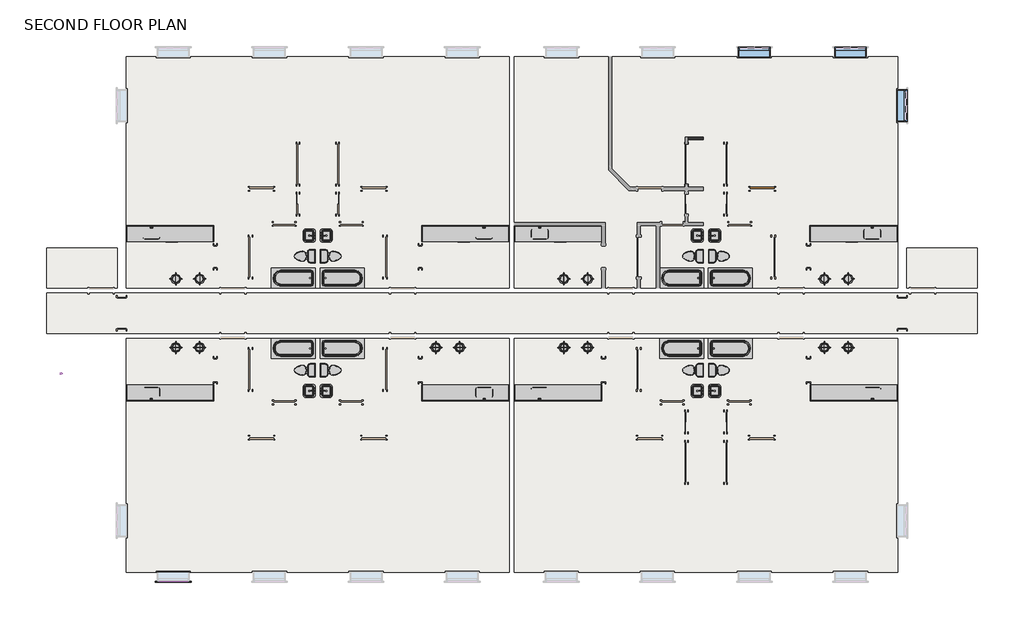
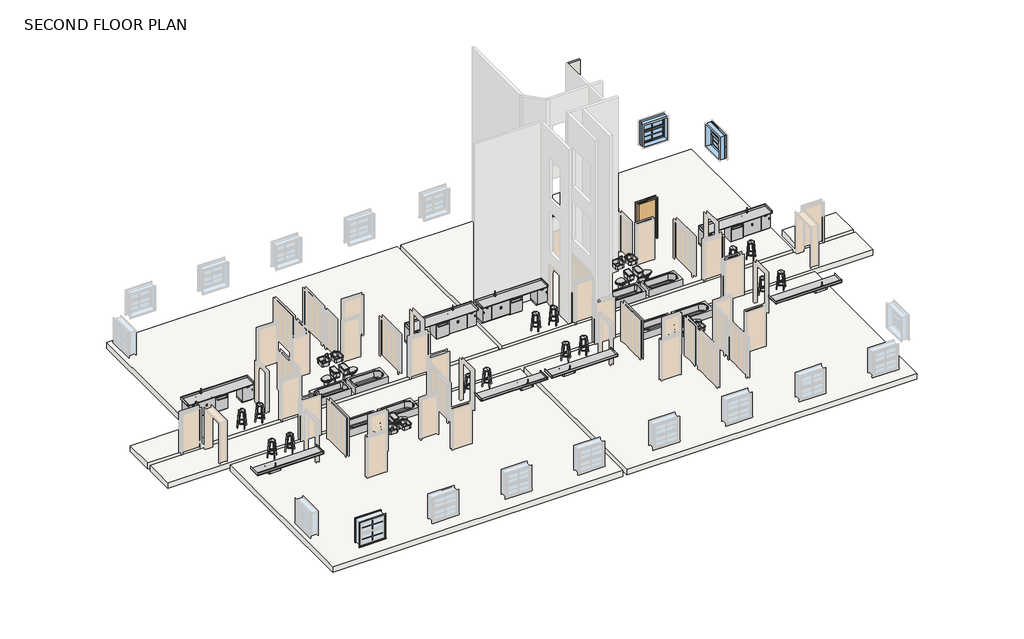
# One storey, part 2 of 3: 34 furniture elements, 32 flow terminals, 9 proxies, 4 slabs, 3 doors, 3 windows, 1 wall.
"""IFC4 building model written with IfcOpenShell, lengths in millimetres."""

from ifc_helpers import new_model, si_unit, frame, origin, place, context, project, spatial, polyline, outline, extrude, transform, mapped, element, save
from components import specialty_equipment_0a81d442, k2515_dishwasher_household_k2515_dishwasher_household_cf2658f5, k2515_dishwasher_household_k2515_dishwasher_household_46c228bc, muntin_pattern_2x2_muntin_pattern_2x2_770224b8, muntin_pattern_2x2_muntin_pattern_2x2_cf99dd86, trim_window_exterior_flat_with_sill_ac84ebb5, trim_window_interior_flat_picture_frame_caf2db4f, door_37c67c65, door_e5d25033, lsy_sink_1a_065a4558, lsy_sink_1a_83b20bf5, flow_terminal_62a433f7, flow_terminal_4d0de4d3, toilet_domestic_3d_toilet_domestic_3d_f7549cf7, toilet_domestic_3d_toilet_domestic_3d_183bbd19, toilet_domestic_3d_toilet_domestic_3d_a08e12bc, toilet_domestic_3d_toilet_domestic_3d_5530cc89, tub_rectangular_3d_tub_rectangular_3d_2253513b, tub_rectangular_3d_tub_rectangular_3d_4e1d8e59, hb12_hb12_18_68083de8, hb12_hb12_18_c50c6706, hb12_hb12_21_dfdbf895, hb12_hb12_21_72806c5e, lsy_bench_top_24dx36h_e849d271, lsy_bench_top_24dx36h_08832318, lsy_bench_top_24dx36h_2ddf329b, lsy_bench_top_24dx36h_1d034a2a, lab_stool_lab_stool_8e3c4d68, lab_stool_lab_stool_061d08b2, sb02_sb2_36_93bd8c5c, sb02_sb2_36_312036f5, window_28d7aabf

model = new_model("IFC4")

# Units and contexts
model_context = context("Model", 3, world=origin())
ifc_project = project(units=[si_unit("LENGTHUNIT", "METRE", prefix="MILLI")], contexts=[model_context])

# Site, building, storey
site = spatial("IfcSite", under=ifc_project)
building = spatial("IfcBuilding", under=site)
storey = spatial("IfcBuildingStorey", under=building, Name="SECOND FLOOR PLAN", Elevation=2844.8)

# Proxies
placement = place(None, origin())
specialty_equipment_shape = specialty_equipment_0a81d442(model_context)
element("IfcBuildingElementProxy", 1, Name="KONE_Buffer_Placeholder : KONE_Buffer_Placeholder", ObjectType="KONE_Buffer_Placeholder : KONE_Buffer_Placeholder", at=placement, inside=storey, context=model_context, shape_type="MappedRepresentation", body=[
    mapped(specialty_equipment_shape, transform((-7809.8601133, 3172.922244, 7810.8), x_axis=(1.0, 0.0, 0.0), y_axis=(0.0, 1.0, 0.0), z_axis=(0.0, 0.0, 1.0))),
])
k2515_dishwasher_household_k2515_dishwasher_household_shape = k2515_dishwasher_household_k2515_dishwasher_household_cf2658f5(model_context)
element("IfcBuildingElementProxy", 2, Name="K2515 - Dishwasher, Household : K2515 - Dishwasher, Household", ObjectType="K2515 - Dishwasher, Household : K2515 - Dishwasher, Household", at=placement, inside=storey, context=model_context, shape_type="MappedRepresentation", body=[
    mapped(k2515_dishwasher_household_k2515_dishwasher_household_shape, transform((-3453.9790125, 8530.5137881, 2844.8), x_axis=(1.0, 0.0, 0.0), y_axis=(0.0, 1.0, 0.0), z_axis=(0.0, 0.0, 1.0))),
])
element("IfcBuildingElementProxy", 3, Name="K2515 - Dishwasher, Household : K2515 - Dishwasher, Household", ObjectType="K2515 - Dishwasher, Household : K2515 - Dishwasher, Household", at=placement, inside=storey, context=model_context, shape_type="MappedRepresentation", body=[
    mapped(k2515_dishwasher_household_k2515_dishwasher_household_shape, transform((11370.4209875, 8530.5137881, 2844.8), x_axis=(1.0, 0.0, 0.0), y_axis=(0.0, 1.0, 0.0), z_axis=(0.0, 0.0, 1.0))),
])
k2515_dishwasher_household_k2515_dishwasher_household_2_shape = k2515_dishwasher_household_k2515_dishwasher_household_46c228bc(model_context)
element("IfcBuildingElementProxy", 4, Name="K2515 - Dishwasher, Household : K2515 - Dishwasher, Household", ObjectType="K2515 - Dishwasher, Household : K2515 - Dishwasher, Household", at=placement, inside=storey, context=model_context, shape_type="MappedRepresentation", body=[
    mapped(k2515_dishwasher_household_k2515_dishwasher_household_2_shape, transform((7690.5959875, 8530.5137881, 2844.8), x_axis=(-1.0, 0.0, 0.0), y_axis=(0.0, -1.0, 0.0), z_axis=(0.0, 0.0, 1.0))),
])
element("IfcBuildingElementProxy", 5, Name="K2515 - Dishwasher, Household : K2515 - Dishwasher, Household", ObjectType="K2515 - Dishwasher, Household : K2515 - Dishwasher, Household", at=placement, inside=storey, context=model_context, shape_type="MappedRepresentation", body=[
    mapped(k2515_dishwasher_household_k2515_dishwasher_household_2_shape, transform((22514.9959875, 8530.5137881, 2844.8), x_axis=(-1.0, 0.0, 0.0), y_axis=(0.0, -1.0, 0.0), z_axis=(0.0, 0.0, 1.0))),
])
muntin_pattern_2x2_muntin_pattern_2x2_shape = muntin_pattern_2x2_muntin_pattern_2x2_770224b8(model_context)
element("IfcBuildingElementProxy", 6, Name="Muntin Pattern_2x2 : Muntin Pattern_2x2", ObjectType="Muntin Pattern_2x2 : Muntin Pattern_2x2", at=placement, inside=storey, context=model_context, shape_type="MappedRepresentation", body=[
    mapped(muntin_pattern_2x2_muntin_pattern_2x2_shape, transform((-3399.0477625, -4742.0612119, 4438.65), x_axis=(1.0, 0.0, 0.0), y_axis=(0.0, 1.0, 0.0), z_axis=(0.0, 0.0, 1.0))),
])
muntin_pattern_2x2_muntin_pattern_2x2_2_shape = muntin_pattern_2x2_muntin_pattern_2x2_cf99dd86(model_context)
element("IfcBuildingElementProxy", 7, Name="Muntin Pattern_2x2 : Muntin Pattern_2x2", ObjectType="Muntin Pattern_2x2 : Muntin Pattern_2x2", at=placement, inside=storey, context=model_context, shape_type="MappedRepresentation", body=[
    mapped(muntin_pattern_2x2_muntin_pattern_2x2_2_shape, transform((-3399.0477625, -4742.0612119, 3829.05), x_axis=(1.0, 0.0, 0.0), y_axis=(0.0, 1.0, 0.0), z_axis=(0.0, 0.0, 1.0))),
])
trim_window_exterior_flat_with_sill_shape = trim_window_exterior_flat_with_sill_ac84ebb5(model_context)
element("IfcBuildingElementProxy", 8, Name="Trim-Window-Exterior-Flat : with Sill", ObjectType="Trim-Window-Exterior-Flat : with Sill", at=placement, inside=storey, context=model_context, shape_type="MappedRepresentation", body=[
    mapped(trim_window_exterior_flat_with_sill_shape, transform((-3399.0477625, -4751.5862119, 4978.4), x_axis=(-1.0, 0.0, 0.0), y_axis=(0.0, 0.0, -1.0), z_axis=(0.0, -1.0, 0.0))),
])
trim_window_interior_flat_picture_frame_shape = trim_window_interior_flat_picture_frame_caf2db4f(model_context)
element("IfcBuildingElementProxy", 9, Name="Trim-Window-Interior-Flat : Picture Frame", ObjectType="Trim-Window-Interior-Flat : Picture Frame", at=placement, inside=storey, context=model_context, shape_type="MappedRepresentation", body=[
    mapped(trim_window_interior_flat_picture_frame_shape, transform((-3399.0477625, -4401.5862119, 4978.4), x_axis=(1.0, 0.0, 0.0), y_axis=(0.0, 0.0, -1.0), z_axis=(0.0, 1.0, 0.0))),
])

# Doors
door_shape = door_37c67c65(model_context)
element("IfcDoor", 10, ObjectType="Door-Bifold 4-Panel Flush SlimFold_Dunbarton : 5'- 0\" x 6' - 8\"", at=placement, inside=storey, context=model_context, shape_type="MappedRepresentation", body=[
    mapped(door_shape, transform((16176.4960171, 11199.1012881, 2844.8), x_axis=(0.0, -1.0, 0.0), y_axis=(1.0, 0.0, 0.0), z_axis=(0.0, 0.0, 1.0))),
])
element("IfcDoor", 11, ObjectType="Door-Bifold 4-Panel Flush SlimFold_Dunbarton : 5'- 0\" x 6' - 8\"", at=placement, inside=storey, context=model_context, shape_type="MappedRepresentation", body=[
    mapped(door_shape, transform((17708.9209578, 11199.1012881, 2844.8), x_axis=(0.0, 1.0, 0.0), y_axis=(-1.0, 0.0, 0.0), z_axis=(0.0, 0.0, 1.0))),
])
door_2_shape = door_e5d25033(model_context)
element("IfcDoor", 12, ObjectType="Single-Flush : 36' x 84\"", at=placement, inside=storey, context=model_context, shape_type="MappedRepresentation", body=[
    mapped(door_2_shape, transform((19090.5959875, 10252.9512881, 2844.8), x_axis=(1.0, 0.0, 0.0), y_axis=(0.0, 1.0, 0.0), z_axis=(0.0, 0.0, 1.0))),
])

# Flow terminals
lsy_sink_1a_shape = lsy_sink_1a_065a4558(model_context)
element("IfcFlowTerminal", 13, ObjectType="LSY_Sink_1A : 25\"W x 15\"D", at=placement, inside=storey, context=model_context, shape_type="MappedRepresentation", body=[
    mapped(lsy_sink_1a_shape, transform((-4245.7932531, 8626.5933869, 2806.7), x_axis=(1.0, 0.0, 0.0), y_axis=(0.0, 1.0, 0.0), z_axis=(0.0, 0.0, 1.0))),
])
element("IfcFlowTerminal", 14, ObjectType="LSY_Sink_1A : 25\"W x 15\"D", at=placement, inside=storey, context=model_context, shape_type="MappedRepresentation", body=[
    mapped(lsy_sink_1a_shape, transform((8488.922728, 2373.0341892, 2806.7), x_axis=(-1.0, 0.0, 0.0), y_axis=(0.0, -1.0, 0.0), z_axis=(0.0, 0.0, 1.0))),
])
element("IfcFlowTerminal", 15, ObjectType="LSY_Sink_1A : 25\"W x 15\"D", at=placement, inside=storey, context=model_context, shape_type="MappedRepresentation", body=[
    mapped(lsy_sink_1a_shape, transform((10578.6067469, 8626.5933869, 2806.7), x_axis=(1.0, 0.0, 0.0), y_axis=(0.0, 1.0, 0.0), z_axis=(0.0, 0.0, 1.0))),
])
element("IfcFlowTerminal", 16, ObjectType="LSY_Sink_1A : 25\"W x 15\"D", at=placement, inside=storey, context=model_context, shape_type="MappedRepresentation", body=[
    mapped(lsy_sink_1a_shape, transform((23313.322728, 2373.0341892, 2806.7), x_axis=(-1.0, 0.0, 0.0), y_axis=(0.0, -1.0, 0.0), z_axis=(0.0, 0.0, 1.0))),
])
lsy_sink_1a_2_shape = lsy_sink_1a_83b20bf5(model_context)
element("IfcFlowTerminal", 17, ObjectType="LSY_Sink_1A : 25\"W x 15\"D", at=placement, inside=storey, context=model_context, shape_type="MappedRepresentation", body=[
    mapped(lsy_sink_1a_2_shape, transform((-4252.3057531, 2373.0341892, 2806.7), x_axis=(1.0, 0.0, 0.0), y_axis=(0.0, 1.0, 0.0), z_axis=(0.0, 0.0, 1.0))),
])
element("IfcFlowTerminal", 18, ObjectType="LSY_Sink_1A : 25\"W x 15\"D", at=placement, inside=storey, context=model_context, shape_type="MappedRepresentation", body=[
    mapped(lsy_sink_1a_2_shape, transform((8482.410228, 8626.5933869, 2806.7), x_axis=(-1.0, 0.0, 0.0), y_axis=(0.0, -1.0, 0.0), z_axis=(0.0, 0.0, 1.0))),
])
element("IfcFlowTerminal", 19, ObjectType="LSY_Sink_1A : 25\"W x 15\"D", at=placement, inside=storey, context=model_context, shape_type="MappedRepresentation", body=[
    mapped(lsy_sink_1a_2_shape, transform((10572.0942469, 2373.0341892, 2806.7), x_axis=(1.0, 0.0, 0.0), y_axis=(0.0, 1.0, 0.0), z_axis=(0.0, 0.0, 1.0))),
])
element("IfcFlowTerminal", 20, ObjectType="LSY_Sink_1A : 25\"W x 15\"D", at=placement, inside=storey, context=model_context, shape_type="MappedRepresentation", body=[
    mapped(lsy_sink_1a_2_shape, transform((23306.810228, 8626.5933869, 2806.7), x_axis=(-1.0, 0.0, 0.0), y_axis=(0.0, -1.0, 0.0), z_axis=(0.0, 0.0, 1.0))),
])
flow_terminal_shape = flow_terminal_62a433f7(model_context)
element("IfcFlowTerminal", 21, ObjectType="Sink Vanity-Square : 20\" x 18\"", at=placement, inside=storey, context=model_context, shape_type="MappedRepresentation", body=[
    mapped(flow_terminal_shape, transform((1841.1630863, 2548.3030286, 2844.8), x_axis=(0.0, -1.0, 0.0), y_axis=(1.0, 0.0, 0.0), z_axis=(0.0, 0.0, 1.0))),
])
element("IfcFlowTerminal", 22, ObjectType="Sink Vanity-Square : 20\" x 18\"", at=placement, inside=storey, context=model_context, shape_type="MappedRepresentation", body=[
    mapped(flow_terminal_shape, transform((2395.4538886, 2516.9245475, 2844.8), x_axis=(0.0, 1.0, 0.0), y_axis=(-1.0, 0.0, 0.0), z_axis=(0.0, 0.0, 1.0))),
])
element("IfcFlowTerminal", 23, ObjectType="Sink Vanity-Square : 20\" x 18\"", at=placement, inside=storey, context=model_context, shape_type="MappedRepresentation", body=[
    mapped(flow_terminal_shape, transform((16665.1630863, 2548.3030286, 2844.8), x_axis=(0.0, -1.0, 0.0), y_axis=(1.0, 0.0, 0.0), z_axis=(0.0, 0.0, 1.0))),
])
element("IfcFlowTerminal", 24, ObjectType="Sink Vanity-Square : 20\" x 18\"", at=placement, inside=storey, context=model_context, shape_type="MappedRepresentation", body=[
    mapped(flow_terminal_shape, transform((17219.4538886, 2516.9245475, 2844.8), x_axis=(0.0, 1.0, 0.0), y_axis=(-1.0, 0.0, 0.0), z_axis=(0.0, 0.0, 1.0))),
])
flow_terminal_2_shape = flow_terminal_4d0de4d3(model_context)
element("IfcFlowTerminal", 25, ObjectType="Sink Vanity-Square : 20\" x 18\"", at=placement, inside=storey, context=model_context, shape_type="MappedRepresentation", body=[
    mapped(flow_terminal_2_shape, transform((16665.1630863, 8451.3245475, 2844.8), x_axis=(0.0, 1.0, 0.0), y_axis=(-1.0, 0.0, 0.0), z_axis=(0.0, 0.0, 1.0))),
])
element("IfcFlowTerminal", 26, ObjectType="Sink Vanity-Square : 20\" x 18\"", at=placement, inside=storey, context=model_context, shape_type="MappedRepresentation", body=[
    mapped(flow_terminal_2_shape, transform((17219.4538886, 8482.7030286, 2844.8), x_axis=(0.0, -1.0, 0.0), y_axis=(1.0, 0.0, 0.0), z_axis=(0.0, 0.0, 1.0))),
])
element("IfcFlowTerminal", 27, ObjectType="Sink Vanity-Square : 20\" x 18\"", at=placement, inside=storey, context=model_context, shape_type="MappedRepresentation", body=[
    mapped(flow_terminal_2_shape, transform((1841.1630863, 8451.3245475, 2844.8), x_axis=(0.0, 1.0, 0.0), y_axis=(-1.0, 0.0, 0.0), z_axis=(0.0, 0.0, 1.0))),
])
element("IfcFlowTerminal", 28, ObjectType="Sink Vanity-Square : 20\" x 18\"", at=placement, inside=storey, context=model_context, shape_type="MappedRepresentation", body=[
    mapped(flow_terminal_2_shape, transform((2395.4538886, 8482.7030286, 2844.8), x_axis=(0.0, -1.0, 0.0), y_axis=(1.0, 0.0, 0.0), z_axis=(0.0, 0.0, 1.0))),
])
toilet_domestic_3d_toilet_domestic_3d_shape = toilet_domestic_3d_toilet_domestic_3d_f7549cf7(model_context)
toilet_domestic_3d_toilet_domestic_3d_2_shape = toilet_domestic_3d_toilet_domestic_3d_183bbd19(model_context)
element("IfcFlowTerminal", 29, ObjectType="Toilet-Domestic-3D : Toilet-Domestic-3D", at=placement, inside=storey, context=model_context, shape_type="MappedRepresentation", body=[
    mapped(toilet_domestic_3d_toilet_domestic_3d_shape, transform((1526.6124601, 3320.0137881, 2844.8), x_axis=(0.0, -1.0, 0.0), y_axis=(1.0, 0.0, 0.0), z_axis=(0.0, 0.0, 1.0))),
    mapped(toilet_domestic_3d_toilet_domestic_3d_2_shape, transform((1526.6124601, 3320.0137881, 2844.8), x_axis=(0.0, -1.0, 0.0), y_axis=(1.0, 0.0, 0.0), z_axis=(0.0, 0.0, 1.0))),
])
element("IfcFlowTerminal", 30, ObjectType="Toilet-Domestic-3D : Toilet-Domestic-3D", at=placement, inside=storey, context=model_context, shape_type="MappedRepresentation", body=[
    mapped(toilet_domestic_3d_toilet_domestic_3d_shape, transform((2710.0045148, 3320.0137881, 2844.8), x_axis=(0.0, 1.0, 0.0), y_axis=(-1.0, 0.0, 0.0), z_axis=(0.0, 0.0, 1.0))),
    mapped(toilet_domestic_3d_toilet_domestic_3d_2_shape, transform((2710.0045148, 3320.0137881, 2844.8), x_axis=(0.0, 1.0, 0.0), y_axis=(-1.0, 0.0, 0.0), z_axis=(0.0, 0.0, 1.0))),
])
element("IfcFlowTerminal", 31, ObjectType="Toilet-Domestic-3D : Toilet-Domestic-3D", at=placement, inside=storey, context=model_context, shape_type="MappedRepresentation", body=[
    mapped(toilet_domestic_3d_toilet_domestic_3d_shape, transform((16350.6124601, 3320.0137881, 2844.8), x_axis=(0.0, -1.0, 0.0), y_axis=(1.0, 0.0, 0.0), z_axis=(0.0, 0.0, 1.0))),
    mapped(toilet_domestic_3d_toilet_domestic_3d_2_shape, transform((16350.6124601, 3320.0137881, 2844.8), x_axis=(0.0, -1.0, 0.0), y_axis=(1.0, 0.0, 0.0), z_axis=(0.0, 0.0, 1.0))),
])
element("IfcFlowTerminal", 32, ObjectType="Toilet-Domestic-3D : Toilet-Domestic-3D", at=placement, inside=storey, context=model_context, shape_type="MappedRepresentation", body=[
    mapped(toilet_domestic_3d_toilet_domestic_3d_shape, transform((17534.0045148, 3320.0137881, 2844.8), x_axis=(0.0, 1.0, 0.0), y_axis=(-1.0, 0.0, 0.0), z_axis=(0.0, 0.0, 1.0))),
    mapped(toilet_domestic_3d_toilet_domestic_3d_2_shape, transform((17534.0045148, 3320.0137881, 2844.8), x_axis=(0.0, 1.0, 0.0), y_axis=(-1.0, 0.0, 0.0), z_axis=(0.0, 0.0, 1.0))),
])
toilet_domestic_3d_toilet_domestic_3d_3_shape = toilet_domestic_3d_toilet_domestic_3d_a08e12bc(model_context)
toilet_domestic_3d_toilet_domestic_3d_4_shape = toilet_domestic_3d_toilet_domestic_3d_5530cc89(model_context)
element("IfcFlowTerminal", 33, ObjectType="Toilet-Domestic-3D : Toilet-Domestic-3D", at=placement, inside=storey, context=model_context, shape_type="MappedRepresentation", body=[
    mapped(toilet_domestic_3d_toilet_domestic_3d_3_shape, transform((16350.6124601, 7679.6137881, 2844.8), x_axis=(0.0, 1.0, 0.0), y_axis=(-1.0, 0.0, 0.0), z_axis=(0.0, 0.0, 1.0))),
    mapped(toilet_domestic_3d_toilet_domestic_3d_4_shape, transform((16350.6124601, 7679.6137881, 2844.8), x_axis=(0.0, 1.0, 0.0), y_axis=(-1.0, 0.0, 0.0), z_axis=(0.0, 0.0, 1.0))),
])
element("IfcFlowTerminal", 34, ObjectType="Toilet-Domestic-3D : Toilet-Domestic-3D", at=placement, inside=storey, context=model_context, shape_type="MappedRepresentation", body=[
    mapped(toilet_domestic_3d_toilet_domestic_3d_3_shape, transform((17534.0045148, 7679.6137881, 2844.8), x_axis=(0.0, -1.0, 0.0), y_axis=(1.0, 0.0, 0.0), z_axis=(0.0, 0.0, 1.0))),
    mapped(toilet_domestic_3d_toilet_domestic_3d_4_shape, transform((17534.0045148, 7679.6137881, 2844.8), x_axis=(0.0, -1.0, 0.0), y_axis=(1.0, 0.0, 0.0), z_axis=(0.0, 0.0, 1.0))),
])
element("IfcFlowTerminal", 35, ObjectType="Toilet-Domestic-3D : Toilet-Domestic-3D", at=placement, inside=storey, context=model_context, shape_type="MappedRepresentation", body=[
    mapped(toilet_domestic_3d_toilet_domestic_3d_3_shape, transform((1526.6124601, 7679.6137881, 2844.8), x_axis=(0.0, 1.0, 0.0), y_axis=(-1.0, 0.0, 0.0), z_axis=(0.0, 0.0, 1.0))),
    mapped(toilet_domestic_3d_toilet_domestic_3d_4_shape, transform((1526.6124601, 7679.6137881, 2844.8), x_axis=(0.0, 1.0, 0.0), y_axis=(-1.0, 0.0, 0.0), z_axis=(0.0, 0.0, 1.0))),
])
element("IfcFlowTerminal", 36, ObjectType="Toilet-Domestic-3D : Toilet-Domestic-3D", at=placement, inside=storey, context=model_context, shape_type="MappedRepresentation", body=[
    mapped(toilet_domestic_3d_toilet_domestic_3d_3_shape, transform((2710.0045148, 7679.6137881, 2844.8), x_axis=(0.0, -1.0, 0.0), y_axis=(1.0, 0.0, 0.0), z_axis=(0.0, 0.0, 1.0))),
    mapped(toilet_domestic_3d_toilet_domestic_3d_4_shape, transform((2710.0045148, 7679.6137881, 2844.8), x_axis=(0.0, -1.0, 0.0), y_axis=(1.0, 0.0, 0.0), z_axis=(0.0, 0.0, 1.0))),
])
tub_rectangular_3d_tub_rectangular_3d_shape = tub_rectangular_3d_tub_rectangular_3d_2253513b(model_context)
element("IfcFlowTerminal", 37, ObjectType="Tub-Rectangular-3D : Tub-Rectangular-3D", at=placement, inside=storey, context=model_context, shape_type="MappedRepresentation", body=[
    mapped(tub_rectangular_3d_tub_rectangular_3d_shape, transform((3322.7364562, 4636.2137881, 2844.8), x_axis=(1.0, 0.0, 0.0), y_axis=(0.0, 1.0, 0.0), z_axis=(0.0, 0.0, 1.0))),
])
element("IfcFlowTerminal", 38, ObjectType="Tub-Rectangular-3D : Tub-Rectangular-3D", at=placement, inside=storey, context=model_context, shape_type="MappedRepresentation", body=[
    mapped(tub_rectangular_3d_tub_rectangular_3d_shape, transform((18146.7364562, 4636.2137881, 2844.8), x_axis=(1.0, 0.0, 0.0), y_axis=(0.0, 1.0, 0.0), z_axis=(0.0, 0.0, 1.0))),
])
element("IfcFlowTerminal", 39, ObjectType="Tub-Rectangular-3D : Tub-Rectangular-3D", at=placement, inside=storey, context=model_context, shape_type="MappedRepresentation", body=[
    mapped(tub_rectangular_3d_tub_rectangular_3d_shape, transform((15737.8805188, 6363.4137881, 2844.8), x_axis=(-1.0, 0.0, 0.0), y_axis=(0.0, -1.0, 0.0), z_axis=(0.0, 0.0, 1.0))),
])
element("IfcFlowTerminal", 40, ObjectType="Tub-Rectangular-3D : Tub-Rectangular-3D", at=placement, inside=storey, context=model_context, shape_type="MappedRepresentation", body=[
    mapped(tub_rectangular_3d_tub_rectangular_3d_shape, transform((913.8805188, 6363.4137881, 2844.8), x_axis=(-1.0, 0.0, 0.0), y_axis=(0.0, -1.0, 0.0), z_axis=(0.0, 0.0, 1.0))),
])
tub_rectangular_3d_tub_rectangular_3d_2_shape = tub_rectangular_3d_tub_rectangular_3d_4e1d8e59(model_context)
element("IfcFlowTerminal", 41, ObjectType="Tub-Rectangular-3D : Tub-Rectangular-3D", at=placement, inside=storey, context=model_context, shape_type="MappedRepresentation", body=[
    mapped(tub_rectangular_3d_tub_rectangular_3d_2_shape, transform((910.7055188, 4636.2137881, 2844.8), x_axis=(-1.0, 0.0, 0.0), y_axis=(0.0, -1.0, 0.0), z_axis=(0.0, 0.0, 1.0))),
])
element("IfcFlowTerminal", 42, ObjectType="Tub-Rectangular-3D : Tub-Rectangular-3D", at=placement, inside=storey, context=model_context, shape_type="MappedRepresentation", body=[
    mapped(tub_rectangular_3d_tub_rectangular_3d_2_shape, transform((15738.2805188, 4636.2137881, 2844.8), x_axis=(-1.0, 0.0, 0.0), y_axis=(0.0, -1.0, 0.0), z_axis=(0.0, 0.0, 1.0))),
])
element("IfcFlowTerminal", 43, ObjectType="Tub-Rectangular-3D : Tub-Rectangular-3D", at=placement, inside=storey, context=model_context, shape_type="MappedRepresentation", body=[
    mapped(tub_rectangular_3d_tub_rectangular_3d_2_shape, transform((18146.7364562, 6363.4137881, 2844.8), x_axis=(1.0, 0.0, 0.0), y_axis=(0.0, 1.0, 0.0), z_axis=(0.0, 0.0, 1.0))),
])
element("IfcFlowTerminal", 44, ObjectType="Tub-Rectangular-3D : Tub-Rectangular-3D", at=placement, inside=storey, context=model_context, shape_type="MappedRepresentation", body=[
    mapped(tub_rectangular_3d_tub_rectangular_3d_2_shape, transform((3322.7364562, 6363.4137881, 2844.8), x_axis=(1.0, 0.0, 0.0), y_axis=(0.0, 1.0, 0.0), z_axis=(0.0, 0.0, 1.0))),
])

# Furniture
hb12_hb12_18_shape = hb12_hb12_18_68083de8(model_context)
element("IfcFurniture", 45, ObjectType="HB12 : HB12-18", at=placement, inside=storey, context=model_context, shape_type="MappedRepresentation", body=[
    mapped(hb12_hb12_18_shape, transform((9119.6582825, 8848.0137881, 2844.8), x_axis=(1.0, 0.0, 0.0), y_axis=(0.0, 1.0, 0.0), z_axis=(0.0, 0.0, 1.0))),
])
element("IfcFurniture", 46, ObjectType="HB12 : HB12-18", at=placement, inside=storey, context=model_context, shape_type="MappedRepresentation", body=[
    mapped(hb12_hb12_18_shape, transform((23944.0582825, 8848.0137881, 2844.8), x_axis=(1.0, 0.0, 0.0), y_axis=(0.0, 1.0, 0.0), z_axis=(0.0, 0.0, 1.0))),
])
hb12_hb12_18_2_shape = hb12_hb12_18_c50c6706(model_context)
element("IfcFurniture", 47, ObjectType="HB12 : HB12-18", at=placement, inside=storey, context=model_context, shape_type="MappedRepresentation", body=[
    mapped(hb12_hb12_18_2_shape, transform((-4883.0413076, 8848.0137881, 2844.8), x_axis=(-1.0, 0.0, 0.0), y_axis=(0.0, -1.0, 0.0), z_axis=(0.0, 0.0, 1.0))),
])
element("IfcFurniture", 48, ObjectType="HB12 : HB12-18", at=placement, inside=storey, context=model_context, shape_type="MappedRepresentation", body=[
    mapped(hb12_hb12_18_2_shape, transform((9941.3586924, 8848.0137881, 2844.8), x_axis=(-1.0, 0.0, 0.0), y_axis=(0.0, -1.0, 0.0), z_axis=(0.0, 0.0, 1.0))),
])
hb12_hb12_21_shape = hb12_hb12_21_dfdbf895(model_context)
element("IfcFurniture", 49, ObjectType="HB12 : HB12-21", at=placement, inside=storey, context=model_context, shape_type="MappedRepresentation", body=[
    mapped(hb12_hb12_21_shape, transform((-2140.8042175, 8848.0137881, 2844.8), x_axis=(1.0, 0.0, 0.0), y_axis=(0.0, 1.0, 0.0), z_axis=(0.0, 0.0, 1.0))),
])
element("IfcFurniture", 50, ObjectType="HB12 : HB12-21", at=placement, inside=storey, context=model_context, shape_type="MappedRepresentation", body=[
    mapped(hb12_hb12_21_shape, transform((12683.5957825, 8848.0137881, 2844.8), x_axis=(1.0, 0.0, 0.0), y_axis=(0.0, 1.0, 0.0), z_axis=(0.0, 0.0, 1.0))),
])
hb12_hb12_21_2_shape = hb12_hb12_21_72806c5e(model_context)
element("IfcFurniture", 51, ObjectType="HB12 : HB12-21", at=placement, inside=storey, context=model_context, shape_type="MappedRepresentation", body=[
    mapped(hb12_hb12_21_2_shape, transform((6377.4211924, 8848.0137881, 2844.8), x_axis=(-1.0, 0.0, 0.0), y_axis=(0.0, -1.0, 0.0), z_axis=(0.0, 0.0, 1.0))),
])
element("IfcFurniture", 52, ObjectType="HB12 : HB12-21", at=placement, inside=storey, context=model_context, shape_type="MappedRepresentation", body=[
    mapped(hb12_hb12_21_2_shape, transform((21201.8211924, 8848.0137881, 2844.8), x_axis=(-1.0, 0.0, 0.0), y_axis=(0.0, -1.0, 0.0), z_axis=(0.0, 0.0, 1.0))),
])
lsy_bench_top_24dx36h_shape = lsy_bench_top_24dx36h_e849d271(model_context)
element("IfcFurniture", 53, ObjectType="LSY_Bench Top : 24Dx36H", at=placement, inside=storey, context=model_context, shape_type="MappedRepresentation", body=[
    mapped(lsy_bench_top_24dx36h_shape, transform((-3049.3163076, 9463.0137881, 2832.1), x_axis=(-1.0, 0.0, 0.0), y_axis=(0.0, -1.0, 0.0), z_axis=(0.0, 0.0, 1.0))),
])
element("IfcFurniture", 54, ObjectType="LSY_Bench Top : 24Dx36H", at=placement, inside=storey, context=model_context, shape_type="MappedRepresentation", body=[
    mapped(lsy_bench_top_24dx36h_shape, transform((11775.0836924, 9463.0137881, 2832.1), x_axis=(-1.0, 0.0, 0.0), y_axis=(0.0, -1.0, 0.0), z_axis=(0.0, 0.0, 1.0))),
])
lsy_bench_top_24dx36h_2_shape = lsy_bench_top_24dx36h_08832318(model_context)
element("IfcFurniture", 55, ObjectType="LSY_Bench Top : 24Dx36H", at=placement, inside=storey, context=model_context, shape_type="MappedRepresentation", body=[
    mapped(lsy_bench_top_24dx36h_2_shape, transform((7285.9332825, 9463.0137881, 2832.1), x_axis=(1.0, 0.0, 0.0), y_axis=(0.0, 1.0, 0.0), z_axis=(0.0, 0.0, 1.0))),
])
element("IfcFurniture", 56, ObjectType="LSY_Bench Top : 24Dx36H", at=placement, inside=storey, context=model_context, shape_type="MappedRepresentation", body=[
    mapped(lsy_bench_top_24dx36h_2_shape, transform((22110.3332825, 9463.0137881, 2832.1), x_axis=(1.0, 0.0, 0.0), y_axis=(0.0, 1.0, 0.0), z_axis=(0.0, 0.0, 1.0))),
])
lsy_bench_top_24dx36h_3_shape = lsy_bench_top_24dx36h_2ddf329b(model_context)
element("IfcFurniture", 57, ObjectType="LSY_Bench Top : 24Dx36H", at=placement, inside=storey, context=model_context, shape_type="MappedRepresentation", body=[
    mapped(lsy_bench_top_24dx36h_3_shape, transform((-3055.8288076, 1536.6137881, 2832.1), x_axis=(-1.0, 0.0, 0.0), y_axis=(0.0, -1.0, 0.0), z_axis=(0.0, 0.0, 1.0))),
])
element("IfcFurniture", 58, ObjectType="LSY_Bench Top : 24Dx36H", at=placement, inside=storey, context=model_context, shape_type="MappedRepresentation", body=[
    mapped(lsy_bench_top_24dx36h_3_shape, transform((11768.5711924, 1536.6137881, 2832.1), x_axis=(-1.0, 0.0, 0.0), y_axis=(0.0, -1.0, 0.0), z_axis=(0.0, 0.0, 1.0))),
])
lsy_bench_top_24dx36h_4_shape = lsy_bench_top_24dx36h_1d034a2a(model_context)
element("IfcFurniture", 59, ObjectType="LSY_Bench Top : 24Dx36H", at=placement, inside=storey, context=model_context, shape_type="MappedRepresentation", body=[
    mapped(lsy_bench_top_24dx36h_4_shape, transform((7292.4457825, 1536.6137881, 2832.1), x_axis=(1.0, 0.0, 0.0), y_axis=(0.0, 1.0, 0.0), z_axis=(0.0, 0.0, 1.0))),
])
element("IfcFurniture", 60, ObjectType="LSY_Bench Top : 24Dx36H", at=placement, inside=storey, context=model_context, shape_type="MappedRepresentation", body=[
    mapped(lsy_bench_top_24dx36h_4_shape, transform((22116.8457825, 1536.6137881, 2832.1), x_axis=(1.0, 0.0, 0.0), y_axis=(0.0, 1.0, 0.0), z_axis=(0.0, 0.0, 1.0))),
])
lab_stool_lab_stool_shape = lab_stool_lab_stool_8e3c4d68(model_context)
element("IfcFurniture", 61, ObjectType="Lab Stool : Lab Stool", at=placement, inside=storey, context=model_context, shape_type="MappedRepresentation", body=[
    mapped(lab_stool_lab_stool_shape, transform((-3297.4124798, 6814.2676792, 2844.8), x_axis=(-1.0, 0.0, 0.0), y_axis=(0.0, -1.0, 0.0), z_axis=(0.0, 0.0, 1.0))),
])
element("IfcFurniture", 62, ObjectType="Lab Stool : Lab Stool", at=placement, inside=storey, context=model_context, shape_type="MappedRepresentation", body=[
    mapped(lab_stool_lab_stool_shape, transform((-2394.2040125, 4189.2137881, 2844.8), x_axis=(1.0, 0.0, 0.0), y_axis=(0.0, 1.0, 0.0), z_axis=(0.0, 0.0, 1.0))),
])
element("IfcFurniture", 63, ObjectType="Lab Stool : Lab Stool", at=placement, inside=storey, context=model_context, shape_type="MappedRepresentation", body=[
    mapped(lab_stool_lab_stool_shape, transform((7534.0209875, 4189.2137881, 2844.8), x_axis=(1.0, 0.0, 0.0), y_axis=(0.0, 1.0, 0.0), z_axis=(0.0, 0.0, 1.0))),
])
element("IfcFurniture", 64, ObjectType="Lab Stool : Lab Stool", at=placement, inside=storey, context=model_context, shape_type="MappedRepresentation", body=[
    mapped(lab_stool_lab_stool_shape, transform((11516.1875202, 6814.2676792, 2844.8), x_axis=(-1.0, 0.0, 0.0), y_axis=(0.0, -1.0, 0.0), z_axis=(0.0, 0.0, 1.0))),
])
element("IfcFurniture", 65, ObjectType="Lab Stool : Lab Stool", at=placement, inside=storey, context=model_context, shape_type="MappedRepresentation", body=[
    mapped(lab_stool_lab_stool_shape, transform((12419.3959875, 4189.2137881, 2844.8), x_axis=(1.0, 0.0, 0.0), y_axis=(0.0, 1.0, 0.0), z_axis=(0.0, 0.0, 1.0))),
])
element("IfcFurniture", 66, ObjectType="Lab Stool : Lab Stool", at=placement, inside=storey, context=model_context, shape_type="MappedRepresentation", body=[
    mapped(lab_stool_lab_stool_shape, transform((21466.0294547, 6814.2676792, 2844.8), x_axis=(-1.0, 0.0, 0.0), y_axis=(0.0, -1.0, 0.0), z_axis=(0.0, 0.0, 1.0))),
])
element("IfcFurniture", 67, ObjectType="Lab Stool : Lab Stool", at=placement, inside=storey, context=model_context, shape_type="MappedRepresentation", body=[
    mapped(lab_stool_lab_stool_shape, transform((22369.2209875, 4189.2137881, 2844.8), x_axis=(1.0, 0.0, 0.0), y_axis=(0.0, 1.0, 0.0), z_axis=(0.0, 0.0, 1.0))),
])
lab_stool_lab_stool_2_shape = lab_stool_lab_stool_061d08b2(model_context)
element("IfcFurniture", 68, ObjectType="Lab Stool : Lab Stool", at=placement, inside=storey, context=model_context, shape_type="MappedRepresentation", body=[
    mapped(lab_stool_lab_stool_2_shape, transform((-2394.2124798, 6814.2676792, 2844.8), x_axis=(1.0, 0.0, 0.0), y_axis=(0.0, 1.0, 0.0), z_axis=(0.0, 0.0, 1.0))),
])
element("IfcFurniture", 69, ObjectType="Lab Stool : Lab Stool", at=placement, inside=storey, context=model_context, shape_type="MappedRepresentation", body=[
    mapped(lab_stool_lab_stool_2_shape, transform((-3297.4040125, 4189.2137881, 2844.8), x_axis=(-1.0, 0.0, 0.0), y_axis=(0.0, -1.0, 0.0), z_axis=(0.0, 0.0, 1.0))),
])
element("IfcFurniture", 70, ObjectType="Lab Stool : Lab Stool", at=placement, inside=storey, context=model_context, shape_type="MappedRepresentation", body=[
    mapped(lab_stool_lab_stool_2_shape, transform((6630.8209875, 4189.2137881, 2844.8), x_axis=(-1.0, 0.0, 0.0), y_axis=(0.0, -1.0, 0.0), z_axis=(0.0, 0.0, 1.0))),
])
element("IfcFurniture", 71, ObjectType="Lab Stool : Lab Stool", at=placement, inside=storey, context=model_context, shape_type="MappedRepresentation", body=[
    mapped(lab_stool_lab_stool_2_shape, transform((12419.3875202, 6814.2676792, 2844.8), x_axis=(1.0, 0.0, 0.0), y_axis=(0.0, 1.0, 0.0), z_axis=(0.0, 0.0, 1.0))),
])
element("IfcFurniture", 72, ObjectType="Lab Stool : Lab Stool", at=placement, inside=storey, context=model_context, shape_type="MappedRepresentation", body=[
    mapped(lab_stool_lab_stool_2_shape, transform((11516.1959875, 4189.2137881, 2844.8), x_axis=(-1.0, 0.0, 0.0), y_axis=(0.0, -1.0, 0.0), z_axis=(0.0, 0.0, 1.0))),
])
element("IfcFurniture", 73, ObjectType="Lab Stool : Lab Stool", at=placement, inside=storey, context=model_context, shape_type="MappedRepresentation", body=[
    mapped(lab_stool_lab_stool_2_shape, transform((22369.2294547, 6814.2676792, 2844.8), x_axis=(1.0, 0.0, 0.0), y_axis=(0.0, 1.0, 0.0), z_axis=(0.0, 0.0, 1.0))),
])
element("IfcFurniture", 74, ObjectType="Lab Stool : Lab Stool", at=placement, inside=storey, context=model_context, shape_type="MappedRepresentation", body=[
    mapped(lab_stool_lab_stool_2_shape, transform((21466.0209875, 4189.2137881, 2844.8), x_axis=(-1.0, 0.0, 0.0), y_axis=(0.0, -1.0, 0.0), z_axis=(0.0, 0.0, 1.0))),
])
sb02_sb2_36_shape = sb02_sb2_36_93bd8c5c(model_context)
element("IfcFurniture", 75, ObjectType="SB02 : SB2-36", at=placement, inside=storey, context=model_context, shape_type="MappedRepresentation", body=[
    mapped(sb02_sb2_36_shape, transform((-4234.7167175, 8848.2137881, 2844.8), x_axis=(1.0, 0.0, 0.0), y_axis=(0.0, 1.0, 0.0), z_axis=(0.0, 0.0, 1.0))),
])
element("IfcFurniture", 76, ObjectType="SB02 : SB2-36", at=placement, inside=storey, context=model_context, shape_type="MappedRepresentation", body=[
    mapped(sb02_sb2_36_shape, transform((10589.6832825, 8848.2137881, 2844.8), x_axis=(1.0, 0.0, 0.0), y_axis=(0.0, 1.0, 0.0), z_axis=(0.0, 0.0, 1.0))),
])
sb02_sb2_36_2_shape = sb02_sb2_36_312036f5(model_context)
element("IfcFurniture", 77, ObjectType="SB02 : SB2-36", at=placement, inside=storey, context=model_context, shape_type="MappedRepresentation", body=[
    mapped(sb02_sb2_36_2_shape, transform((8471.3336924, 8848.2137881, 2844.8), x_axis=(-1.0, 0.0, 0.0), y_axis=(0.0, -1.0, 0.0), z_axis=(0.0, 0.0, 1.0))),
])
element("IfcFurniture", 78, ObjectType="SB02 : SB2-36", at=placement, inside=storey, context=model_context, shape_type="MappedRepresentation", body=[
    mapped(sb02_sb2_36_2_shape, transform((23295.7336924, 8848.2137881, 2844.8), x_axis=(-1.0, 0.0, 0.0), y_axis=(0.0, -1.0, 0.0), z_axis=(0.0, 0.0, 1.0))),
])

# Slabs
element("IfcSlab", 79, ObjectType="MultiFamilyGeneric", at=placement, inside=storey, context=model_context, shape_type="SweptSolid", body=[
    extrude(outline(polyline([(-5546.8915125, 7982.0006), (-5546.8915125, 6460.4137881), (-8237.806756, 6460.4137881), (-8237.806756, 7982.0006), (-5546.8915125, 7982.0006)])), frame((0.0, 0.0, 2540.0), z_axis=(0.0, 0.0, 1.0), x_axis=(1.0, 0.0, 0.0)), (0.0, 0.0, 1.0), 304.8),
])
element("IfcSlab", 80, ObjectType="MultiFamilyGeneric", at=placement, inside=storey, context=model_context, shape_type="SweptSolid", body=[
    extrude(outline(polyline([(24607.1084875, 7982.0006), (27308.0237309, 7982.0006), (27308.0237309, 6460.4137881), (24607.1084875, 6460.4137881), (24607.1084875, 7982.0006)])), frame((0.0, 0.0, 2540.0), z_axis=(0.0, 0.0, 1.0), x_axis=(1.0, 0.0, 0.0)), (0.0, 0.0, 1.0), 304.8),
])
element("IfcSlab", 81, ObjectType="MultiFamilyGeneric", at=placement, inside=storey, context=model_context, shape_type="SweptSolid", body=[
    extrude(outline(polyline([(27308.0237309, 6266.4137881), (27308.0237309, 4733.2137881), (-8237.806756, 4733.2137881), (-8237.806756, 6266.4137881), (27308.0237309, 6266.4137881)])), frame((0.0, 0.0, 2540.0), z_axis=(0.0, 0.0, 1.0), x_axis=(1.0, 0.0, 0.0)), (0.0, 0.0, 1.0), 304.8),
])
element("IfcSlab", 82, ObjectType="MultiFamilyGeneric", at=placement, inside=storey, context=model_context, shape_type="SweptSolid", body=[
    extrude(outline(polyline([(9433.5084875, 15304.2137881), (9433.5084875, 6460.4137881), (-5196.8915125, 6460.4137881), (-5196.8915125, 15304.2137881), (9433.5084875, 15304.2137881)])), frame((0.0, 0.0, 2540.0), z_axis=(0.0, 0.0, 1.0), x_axis=(1.0, 0.0, 0.0)), (0.0, 0.0, 1.0), 304.8),
    extrude(outline(polyline([(24257.1084875, 15304.2137881), (24257.1084875, 6460.4137881), (9627.5084875, 6460.4137881), (9627.5084875, 15304.2137881), (24257.1084875, 15304.2137881)])), frame((0.0, 0.0, 2540.0), z_axis=(0.0, 0.0, 1.0), x_axis=(1.0, 0.0, 0.0)), (0.0, 0.0, 1.0), 304.8),
    extrude(outline(polyline([(9428.1084875, 4539.2137881), (9428.1084875, -4401.5862119), (-5196.8915125, -4401.5862119), (-5196.8915125, 4539.2137881), (9428.1084875, 4539.2137881)])), frame((0.0, 0.0, 2540.0), z_axis=(0.0, 0.0, 1.0), x_axis=(1.0, 0.0, 0.0)), (0.0, 0.0, 1.0), 304.8),
    extrude(outline(polyline([(24257.1084875, 4539.2137881), (24257.1084875, -4401.5862119), (9622.1084875, -4401.5862119), (9622.1084875, 4539.2137881), (24257.1084875, 4539.2137881)])), frame((0.0, 0.0, 2540.0), z_axis=(0.0, 0.0, 1.0), x_axis=(1.0, 0.0, 0.0)), (0.0, 0.0, 1.0), 304.8),
    extrude(outline(polyline([(27308.0237309, 6266.4137881), (27308.0237309, 4733.2137881), (-8237.806756, 4733.2137881), (-8237.806756, 6266.4137881), (27308.0237309, 6266.4137881)])), frame((0.0, 0.0, 2540.0), z_axis=(0.0, 0.0, 1.0), x_axis=(1.0, 0.0, 0.0)), (0.0, 0.0, 1.0), 304.8),
])

# Wall
element("IfcWall", 83, ObjectType="Generic - 3 1/2\"", at=placement, inside=storey, context=model_context, shape_type="SweptSolid", body=[
    extrude(outline(polyline([(16845.7084875, 12138.9012881), (16236.9084875, 12138.9012881), (16236.9084875, 12227.8012881), (16845.7084875, 12227.8012881), (16845.7084875, 12138.9012881)])), frame((0.0, 0.0, 2844.8), z_axis=(0.0, 0.0, 1.0), x_axis=(1.0, 0.0, 0.0)), (0.0, 0.0, 1.0), 9296.4),
])

# Windows
window_shape = window_28d7aabf(model_context)
element("IfcWindow", 84, ObjectType="Window-Awning-Double-Vertical : 48\" x 48\"", at=placement, inside=storey, context=model_context, shape_type="MappedRepresentation", body=[
    mapped(window_shape, transform((24432.1084875, 13431.007194, 2844.8), x_axis=(0.0, 1.0, 0.0), y_axis=(-1.0, 0.0, 0.0), z_axis=(0.0, 0.0, 1.0))),
])
element("IfcWindow", 85, ObjectType="Window-Awning-Double-Vertical : 48\" x 48\"", at=placement, inside=storey, context=model_context, shape_type="MappedRepresentation", body=[
    mapped(window_shape, transform((22460.0647375, 15479.2137881, 2844.8), x_axis=(-1.0, 0.0, 0.0), y_axis=(0.0, -1.0, 0.0), z_axis=(0.0, 0.0, 1.0))),
])
element("IfcWindow", 86, ObjectType="Window-Awning-Double-Vertical : 48\" x 48\"", at=placement, inside=storey, context=model_context, shape_type="MappedRepresentation", body=[
    mapped(window_shape, transform((18789.0522375, 15479.2137881, 2844.8), x_axis=(-1.0, 0.0, 0.0), y_axis=(0.0, -1.0, 0.0), z_axis=(0.0, 0.0, 1.0))),
])

save(model, "model.ifc")
